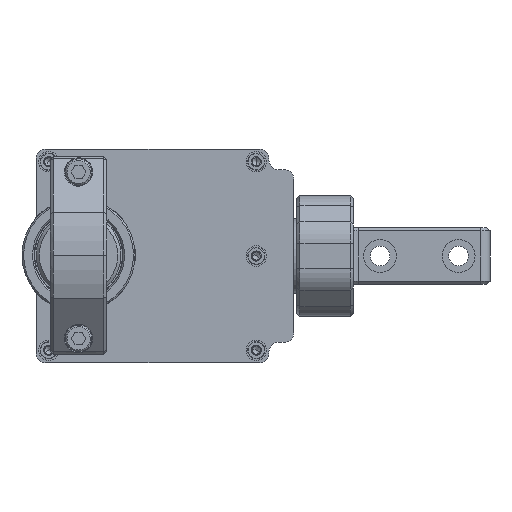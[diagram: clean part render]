
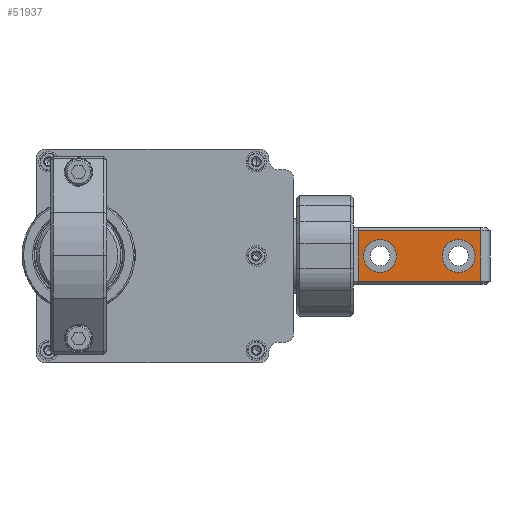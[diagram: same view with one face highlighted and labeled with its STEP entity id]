
A CAD part, left-side view. The second image highlights one B-rep face of the part: STEP entity #51937.
In plain terms, the highlighted planar face has unit normal (-1, 0, 0).
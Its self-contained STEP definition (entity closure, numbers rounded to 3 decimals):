
#289 = VECTOR ( 'NONE', #47934, 1000. ) ;
#968 = EDGE_LOOP ( 'NONE', ( #36659, #47266 ) ) ;
#3798 = ORIENTED_EDGE ( 'NONE', *, *, #42926, .F. ) ;
#4450 = CARTESIAN_POINT ( 'NONE',  ( -560.771, -473.678, 17. ) ) ;
#6045 = PLANE ( 'NONE',  #40535 ) ;
#7306 = EDGE_CURVE ( 'NONE', #57035, #27480, #62923, .T. ) ;
#9594 = ORIENTED_EDGE ( 'NONE', *, *, #45982, .T. ) ;
#10214 = CARTESIAN_POINT ( 'NONE',  ( -560.771, -473.678, 17. ) ) ;
#11283 = DIRECTION ( 'NONE',  ( 0., 0., -1. ) ) ;
#11574 = AXIS2_PLACEMENT_3D ( 'NONE', #39347, #38627, #39102 ) ;
#11948 = CARTESIAN_POINT ( 'NONE',  ( -560.771, -512.678, 1. ) ) ;
#12925 = CARTESIAN_POINT ( 'NONE',  ( -560.771, -505.678, 14.25 ) ) ;
#13337 = DIRECTION ( 'NONE',  ( 0., -1., 0. ) ) ;
#14096 = CIRCLE ( 'NONE', #22140, 5.25 ) ;
#15170 = CARTESIAN_POINT ( 'NONE',  ( -560.771, -505.678, 3.75 ) ) ;
#16384 = VECTOR ( 'NONE', #72576, 1000. ) ;
#17505 = VERTEX_POINT ( 'NONE', #11948 ) ;
#17923 = VERTEX_POINT ( 'NONE', #50418 ) ;
#21582 = ORIENTED_EDGE ( 'NONE', *, *, #63008, .T. ) ;
#22067 = DIRECTION ( 'NONE',  ( 0., 0., 1. ) ) ;
#22140 = AXIS2_PLACEMENT_3D ( 'NONE', #72861, #61943, #66410 ) ;
#24322 = ORIENTED_EDGE ( 'NONE', *, *, #60507, .F. ) ;
#26694 = LINE ( 'NONE', #59335, #64746 ) ;
#27480 = VERTEX_POINT ( 'NONE', #15170 ) ;
#27682 = VERTEX_POINT ( 'NONE', #4450 ) ;
#28682 = AXIS2_PLACEMENT_3D ( 'NONE', #52480, #68645, #40199 ) ;
#29577 = LINE ( 'NONE', #54621, #289 ) ;
#31434 = LINE ( 'NONE', #10214, #16384 ) ;
#33307 = FACE_OUTER_BOUND ( 'NONE', #49086, .T. ) ;
#36659 = ORIENTED_EDGE ( 'NONE', *, *, #7306, .F. ) ;
#36776 = CIRCLE ( 'NONE', #28682, 5.25 ) ;
#37131 = EDGE_CURVE ( 'NONE', #52924, #17505, #59781, .T. ) ;
#38155 = CIRCLE ( 'NONE', #70300, 5.25 ) ;
#38627 = DIRECTION ( 'NONE',  ( -1., 0., 0. ) ) ;
#39102 = DIRECTION ( 'NONE',  ( 0., 0., 1. ) ) ;
#39347 = CARTESIAN_POINT ( 'NONE',  ( -560.771, -505.678, 9. ) ) ;
#40199 = DIRECTION ( 'NONE',  ( 0., 0., 1. ) ) ;
#40418 = FACE_BOUND ( 'NONE', #65770, .T. ) ;
#40535 = AXIS2_PLACEMENT_3D ( 'NONE', #73115, #68657, #57977 ) ;
#40742 = ORIENTED_EDGE ( 'NONE', *, *, #55855, .T. ) ;
#42926 = EDGE_CURVE ( 'NONE', #68797, #17923, #14096, .T. ) ;
#45982 = EDGE_CURVE ( 'NONE', #66787, #17505, #26694, .T. ) ;
#47266 = ORIENTED_EDGE ( 'NONE', *, *, #62652, .F. ) ;
#47934 = DIRECTION ( 'NONE',  ( 0., 0., -1. ) ) ;
#49028 = ORIENTED_EDGE ( 'NONE', *, *, #37131, .F. ) ;
#49086 = EDGE_LOOP ( 'NONE', ( #21582, #9594, #49028, #40742 ) ) ;
#50198 = DIRECTION ( 'NONE',  ( -1., 0., 0. ) ) ;
#50418 = CARTESIAN_POINT ( 'NONE',  ( -560.771, -480.678, 3.75 ) ) ;
#51937 = ADVANCED_FACE ( 'NONE', ( #73121, #40418, #33307 ), #6045, .F. ) ;
#52480 = CARTESIAN_POINT ( 'NONE',  ( -560.771, -505.678, 9. ) ) ;
#52924 = VERTEX_POINT ( 'NONE', #53967 ) ;
#53967 = CARTESIAN_POINT ( 'NONE',  ( -560.771, -512.678, 17. ) ) ;
#54621 = CARTESIAN_POINT ( 'NONE',  ( -560.771, -473.678, 18. ) ) ;
#55553 = CARTESIAN_POINT ( 'NONE',  ( -560.771, -480.678, 14.25 ) ) ;
#55855 = EDGE_CURVE ( 'NONE', #52924, #27682, #31434, .T. ) ;
#55923 = CARTESIAN_POINT ( 'NONE',  ( -560.771, -480.678, 9. ) ) ;
#56816 = CARTESIAN_POINT ( 'NONE',  ( -560.771, -512.678, 18. ) ) ;
#57035 = VERTEX_POINT ( 'NONE', #12925 ) ;
#57977 = DIRECTION ( 'NONE',  ( 0., 0., -1. ) ) ;
#59335 = CARTESIAN_POINT ( 'NONE',  ( -560.771, -512.678, 1. ) ) ;
#59781 = LINE ( 'NONE', #56816, #62484 ) ;
#60507 = EDGE_CURVE ( 'NONE', #17923, #68797, #38155, .T. ) ;
#61943 = DIRECTION ( 'NONE',  ( -1., 0., 0. ) ) ;
#62484 = VECTOR ( 'NONE', #11283, 1000. ) ;
#62652 = EDGE_CURVE ( 'NONE', #27480, #57035, #36776, .T. ) ;
#62923 = CIRCLE ( 'NONE', #11574, 5.25 ) ;
#63008 = EDGE_CURVE ( 'NONE', #27682, #66787, #29577, .T. ) ;
#64746 = VECTOR ( 'NONE', #13337, 1000. ) ;
#65770 = EDGE_LOOP ( 'NONE', ( #3798, #24322 ) ) ;
#66410 = DIRECTION ( 'NONE',  ( 0., 0., 1. ) ) ;
#66787 = VERTEX_POINT ( 'NONE', #68276 ) ;
#68276 = CARTESIAN_POINT ( 'NONE',  ( -560.771, -473.678, 1. ) ) ;
#68645 = DIRECTION ( 'NONE',  ( -1., 0., 0. ) ) ;
#68657 = DIRECTION ( 'NONE',  ( 1., 0., 0. ) ) ;
#68797 = VERTEX_POINT ( 'NONE', #55553 ) ;
#70300 = AXIS2_PLACEMENT_3D ( 'NONE', #55923, #50198, #22067 ) ;
#72576 = DIRECTION ( 'NONE',  ( 0., 1., 0. ) ) ;
#72861 = CARTESIAN_POINT ( 'NONE',  ( -560.771, -480.678, 9. ) ) ;
#73115 = CARTESIAN_POINT ( 'NONE',  ( -560.771, -512.678, 18. ) ) ;
#73121 = FACE_BOUND ( 'NONE', #968, .T. ) ;
